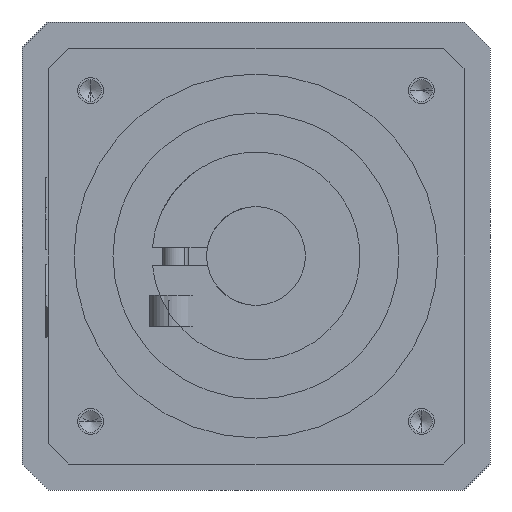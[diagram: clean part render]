
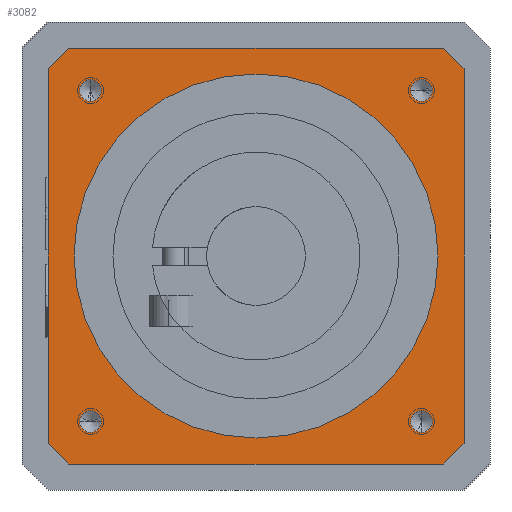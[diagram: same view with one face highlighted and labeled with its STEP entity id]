
A CAD part, front view. The second image highlights one B-rep face of the part: STEP entity #3082.
In plain terms, the highlighted planar face has unit normal (0, -1, 0).
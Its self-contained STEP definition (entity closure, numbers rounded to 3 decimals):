
#2305=DIRECTION('',(-0.707,0.,0.707));
#2306=VECTOR('',#2305,5.657);
#2307=CARTESIAN_POINT('',(-36.,0.,-40.));
#2308=LINE('',#2307,#2306);
#2309=DIRECTION('',(0.,0.,1.));
#2310=VECTOR('',#2309,72.);
#2311=CARTESIAN_POINT('',(-40.,0.,-36.));
#2312=LINE('',#2311,#2310);
#2313=DIRECTION('',(0.707,0.,0.707));
#2314=VECTOR('',#2313,5.657);
#2315=CARTESIAN_POINT('',(-40.,0.,36.));
#2316=LINE('',#2315,#2314);
#2317=DIRECTION('',(1.,0.,0.));
#2318=VECTOR('',#2317,72.);
#2319=CARTESIAN_POINT('',(-36.,0.,40.));
#2320=LINE('',#2319,#2318);
#2321=DIRECTION('',(0.707,0.,-0.707));
#2322=VECTOR('',#2321,5.657);
#2323=CARTESIAN_POINT('',(36.,0.,40.));
#2324=LINE('',#2323,#2322);
#2325=DIRECTION('',(0.,0.,-1.));
#2326=VECTOR('',#2325,72.);
#2327=CARTESIAN_POINT('',(40.,0.,36.));
#2328=LINE('',#2327,#2326);
#2329=DIRECTION('',(-0.707,0.,-0.707));
#2330=VECTOR('',#2329,5.657);
#2331=CARTESIAN_POINT('',(40.,0.,-36.));
#2332=LINE('',#2331,#2330);
#2333=DIRECTION('',(-1.,0.,0.));
#2334=VECTOR('',#2333,72.);
#2335=CARTESIAN_POINT('',(36.,0.,-40.));
#2336=LINE('',#2335,#2334);
#2337=CARTESIAN_POINT('',(0.,0.,0.));
#2338=DIRECTION('',(0.,1.,0.));
#2339=DIRECTION('',(0.,0.,-1.));
#2340=AXIS2_PLACEMENT_3D('',#2337,#2338,#2339);
#2342=CARTESIAN_POINT('',(0.,0.,0.));
#2343=DIRECTION('',(0.,1.,0.));
#2344=DIRECTION('',(0.,0.,1.));
#2345=AXIS2_PLACEMENT_3D('',#2342,#2343,#2344);
#2347=CARTESIAN_POINT('',(-31.82,0.,-31.82));
#2348=DIRECTION('',(0.,-1.,0.));
#2349=DIRECTION('',(-1.,0.,0.));
#2350=AXIS2_PLACEMENT_3D('',#2347,#2348,#2349);
#2352=CARTESIAN_POINT('',(-31.82,0.,-31.82));
#2353=DIRECTION('',(0.,-1.,0.));
#2354=DIRECTION('',(1.,0.,0.));
#2355=AXIS2_PLACEMENT_3D('',#2352,#2353,#2354);
#2357=CARTESIAN_POINT('',(-31.82,0.,31.82));
#2358=DIRECTION('',(0.,-1.,0.));
#2359=DIRECTION('',(0.,0.,1.));
#2360=AXIS2_PLACEMENT_3D('',#2357,#2358,#2359);
#2362=CARTESIAN_POINT('',(-31.82,0.,31.82));
#2363=DIRECTION('',(0.,-1.,0.));
#2364=DIRECTION('',(0.,0.,-1.));
#2365=AXIS2_PLACEMENT_3D('',#2362,#2363,#2364);
#2367=CARTESIAN_POINT('',(31.82,0.,31.82));
#2368=DIRECTION('',(0.,-1.,0.));
#2369=DIRECTION('',(1.,0.,0.));
#2370=AXIS2_PLACEMENT_3D('',#2367,#2368,#2369);
#2372=CARTESIAN_POINT('',(31.82,0.,31.82));
#2373=DIRECTION('',(0.,-1.,0.));
#2374=DIRECTION('',(-1.,0.,0.));
#2375=AXIS2_PLACEMENT_3D('',#2372,#2373,#2374);
#2377=CARTESIAN_POINT('',(31.82,0.,-31.82));
#2378=DIRECTION('',(0.,-1.,0.));
#2379=DIRECTION('',(0.,0.,-1.));
#2380=AXIS2_PLACEMENT_3D('',#2377,#2378,#2379);
#2382=CARTESIAN_POINT('',(31.82,0.,-31.82));
#2383=DIRECTION('',(0.,-1.,0.));
#2384=DIRECTION('',(0.,0.,1.));
#2385=AXIS2_PLACEMENT_3D('',#2382,#2383,#2384);
#2867=CARTESIAN_POINT('',(-36.,0.,-40.));
#2868=CARTESIAN_POINT('',(-40.,0.,-36.));
#2869=VERTEX_POINT('',#2867);
#2870=VERTEX_POINT('',#2868);
#2871=CARTESIAN_POINT('',(-40.,0.,36.));
#2872=VERTEX_POINT('',#2871);
#2873=CARTESIAN_POINT('',(-36.,0.,40.));
#2874=VERTEX_POINT('',#2873);
#2875=CARTESIAN_POINT('',(36.,0.,40.));
#2876=VERTEX_POINT('',#2875);
#2877=CARTESIAN_POINT('',(40.,0.,36.));
#2878=VERTEX_POINT('',#2877);
#2879=CARTESIAN_POINT('',(40.,0.,-36.));
#2880=VERTEX_POINT('',#2879);
#2881=CARTESIAN_POINT('',(36.,0.,-40.));
#2882=VERTEX_POINT('',#2881);
#2907=CARTESIAN_POINT('',(0.,0.,-35.));
#2908=CARTESIAN_POINT('',(0.,0.,35.));
#2909=VERTEX_POINT('',#2907);
#2910=VERTEX_POINT('',#2908);
#2921=CARTESIAN_POINT('',(-33.92,0.,-31.82));
#2922=CARTESIAN_POINT('',(-29.72,0.,-31.82));
#2923=VERTEX_POINT('',#2921);
#2924=VERTEX_POINT('',#2922);
#2931=CARTESIAN_POINT('',(-31.82,0.,33.92));
#2932=CARTESIAN_POINT('',(-31.82,0.,29.72));
#2933=VERTEX_POINT('',#2931);
#2934=VERTEX_POINT('',#2932);
#2941=CARTESIAN_POINT('',(33.92,0.,31.82));
#2942=CARTESIAN_POINT('',(29.72,0.,31.82));
#2943=VERTEX_POINT('',#2941);
#2944=VERTEX_POINT('',#2942);
#2951=CARTESIAN_POINT('',(31.82,0.,-33.92));
#2952=CARTESIAN_POINT('',(31.82,0.,-29.72));
#2953=VERTEX_POINT('',#2951);
#2954=VERTEX_POINT('',#2952);
#3029=CARTESIAN_POINT('',(0.,0.,0.));
#3030=DIRECTION('',(0.,1.,0.));
#3031=DIRECTION('',(1.,0.,0.));
#3032=AXIS2_PLACEMENT_3D('',#3029,#3030,#3031);
#3033=PLANE('',#3032);
#3035=ORIENTED_EDGE('',*,*,#3034,.T.);
#3037=ORIENTED_EDGE('',*,*,#3036,.T.);
#3039=ORIENTED_EDGE('',*,*,#3038,.T.);
#3041=ORIENTED_EDGE('',*,*,#3040,.T.);
#3043=ORIENTED_EDGE('',*,*,#3042,.T.);
#3045=ORIENTED_EDGE('',*,*,#3044,.T.);
#3047=ORIENTED_EDGE('',*,*,#3046,.T.);
#3049=ORIENTED_EDGE('',*,*,#3048,.T.);
#3050=EDGE_LOOP('',(#3035,#3037,#3039,#3041,#3043,#3045,#3047,#3049));
#3051=FACE_OUTER_BOUND('',#3050,.F.);
#3053=ORIENTED_EDGE('',*,*,#3052,.F.);
#3055=ORIENTED_EDGE('',*,*,#3054,.F.);
#3056=EDGE_LOOP('',(#3053,#3055));
#3057=FACE_BOUND('',#3056,.F.);
#3059=ORIENTED_EDGE('',*,*,#3058,.T.);
#3061=ORIENTED_EDGE('',*,*,#3060,.T.);
#3062=EDGE_LOOP('',(#3059,#3061));
#3063=FACE_BOUND('',#3062,.F.);
#3065=ORIENTED_EDGE('',*,*,#3064,.T.);
#3067=ORIENTED_EDGE('',*,*,#3066,.T.);
#3068=EDGE_LOOP('',(#3065,#3067));
#3069=FACE_BOUND('',#3068,.F.);
#3071=ORIENTED_EDGE('',*,*,#3070,.T.);
#3073=ORIENTED_EDGE('',*,*,#3072,.T.);
#3074=EDGE_LOOP('',(#3071,#3073));
#3075=FACE_BOUND('',#3074,.F.);
#3077=ORIENTED_EDGE('',*,*,#3076,.T.);
#3079=ORIENTED_EDGE('',*,*,#3078,.T.);
#3080=EDGE_LOOP('',(#3077,#3079));
#3081=FACE_BOUND('',#3080,.F.);
#2341=CIRCLE('',#2340,35.);
#2346=CIRCLE('',#2345,35.);
#2351=CIRCLE('',#2350,2.1);
#2356=CIRCLE('',#2355,2.1);
#2361=CIRCLE('',#2360,2.1);
#2366=CIRCLE('',#2365,2.1);
#2371=CIRCLE('',#2370,2.1);
#2376=CIRCLE('',#2375,2.1);
#2381=CIRCLE('',#2380,2.1);
#2386=CIRCLE('',#2385,2.1);
#3034=EDGE_CURVE('',#2869,#2870,#2308,.T.);
#3036=EDGE_CURVE('',#2870,#2872,#2312,.T.);
#3038=EDGE_CURVE('',#2872,#2874,#2316,.T.);
#3040=EDGE_CURVE('',#2874,#2876,#2320,.T.);
#3042=EDGE_CURVE('',#2876,#2878,#2324,.T.);
#3044=EDGE_CURVE('',#2878,#2880,#2328,.T.);
#3046=EDGE_CURVE('',#2880,#2882,#2332,.T.);
#3048=EDGE_CURVE('',#2882,#2869,#2336,.T.);
#3052=EDGE_CURVE('',#2909,#2910,#2341,.T.);
#3054=EDGE_CURVE('',#2910,#2909,#2346,.T.);
#3058=EDGE_CURVE('',#2923,#2924,#2351,.T.);
#3060=EDGE_CURVE('',#2924,#2923,#2356,.T.);
#3064=EDGE_CURVE('',#2933,#2934,#2361,.T.);
#3066=EDGE_CURVE('',#2934,#2933,#2366,.T.);
#3070=EDGE_CURVE('',#2943,#2944,#2371,.T.);
#3072=EDGE_CURVE('',#2944,#2943,#2376,.T.);
#3076=EDGE_CURVE('',#2953,#2954,#2381,.T.);
#3078=EDGE_CURVE('',#2954,#2953,#2386,.T.);
#3082=ADVANCED_FACE('',(#3051,#3057,#3063,#3069,#3075,#3081),#3033,.F.);
